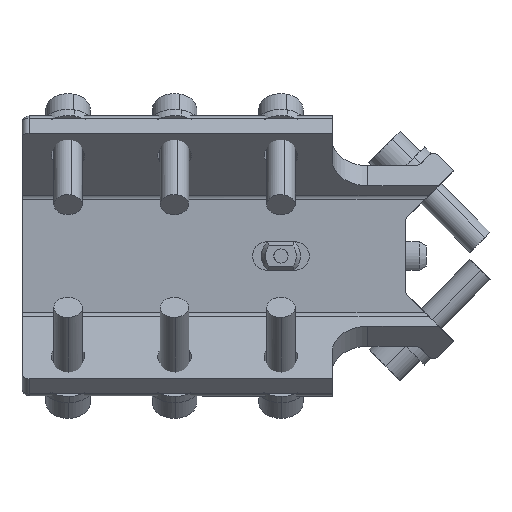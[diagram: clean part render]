
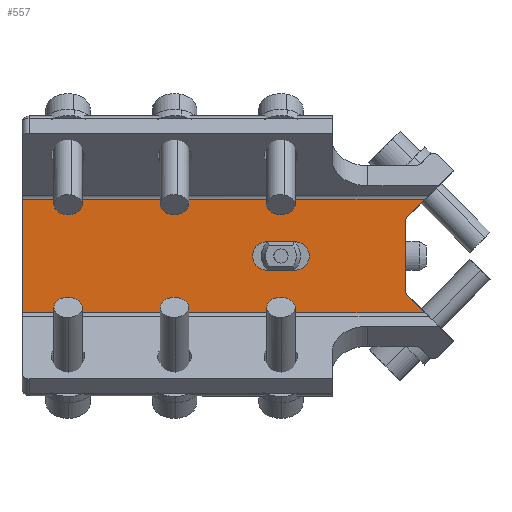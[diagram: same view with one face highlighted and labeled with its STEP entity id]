
A CAD part, front view. The second image highlights one B-rep face of the part: STEP entity #557.
In plain terms, the highlighted planar face has unit normal (0, -1, 0).
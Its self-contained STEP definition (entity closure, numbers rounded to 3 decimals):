
#279=CARTESIAN_POINT('Vertex',(-25.,43.241,-9.734)) ;
#295=CARTESIAN_POINT('Vertex',(-25.,43.241,9.734)) ;
#298=CARTESIAN_POINT('Line Origine',(-25.,43.241,0.)) ;
#321=CARTESIAN_POINT('Axis2P3D Location',(-23.5,43.241,-9.734)) ;
#325=CARTESIAN_POINT('Vertex',(-24.561,43.241,-10.794)) ;
#424=CARTESIAN_POINT('Axis2P3D Location',(-23.5,43.241,9.734)) ;
#428=CARTESIAN_POINT('Vertex',(-24.561,43.241,10.795)) ;
#443=CARTESIAN_POINT('Axis2P3D Location',(-90.,43.241,15.948)) ;
#448=CARTESIAN_POINT('Line Origine',(-86.5,43.241,15.948)) ;
#452=CARTESIAN_POINT('Vertex',(-133.,43.241,15.948)) ;
#454=CARTESIAN_POINT('Vertex',(-40.,43.241,15.948)) ;
#457=CARTESIAN_POINT('Line Origine',(-133.,43.241,0.)) ;
#461=CARTESIAN_POINT('Vertex',(-133.,43.241,-15.947)) ;
#464=CARTESIAN_POINT('Line Origine',(-86.5,43.241,-15.947)) ;
#468=CARTESIAN_POINT('Vertex',(-40.,43.241,-15.947)) ;
#471=CARTESIAN_POINT('Line Origine',(-35.361,43.241,-15.947)) ;
#475=CARTESIAN_POINT('Vertex',(-30.722,43.241,-15.947)) ;
#478=CARTESIAN_POINT('Line Origine',(-25.065,43.241,-15.947)) ;
#482=CARTESIAN_POINT('Vertex',(-19.408,43.241,-15.947)) ;
#485=CARTESIAN_POINT('Line Origine',(-21.985,43.241,-13.371)) ;
#490=CARTESIAN_POINT('Line Origine',(-21.985,43.241,13.371)) ;
#494=CARTESIAN_POINT('Vertex',(-19.408,43.241,15.948)) ;
#497=CARTESIAN_POINT('Line Origine',(-25.065,43.241,15.948)) ;
#501=CARTESIAN_POINT('Vertex',(-30.722,43.241,15.948)) ;
#504=CARTESIAN_POINT('Line Origine',(-35.361,43.241,15.948)) ;
#523=CARTESIAN_POINT('Axis2P3D Location',(-56.,43.241,0.)) ;
#527=CARTESIAN_POINT('Vertex',(-56.,43.241,-4.)) ;
#529=CARTESIAN_POINT('Vertex',(-56.,43.241,4.)) ;
#532=CARTESIAN_POINT('Line Origine',(-60.,43.241,-4.)) ;
#536=CARTESIAN_POINT('Vertex',(-64.,43.241,-4.)) ;
#539=CARTESIAN_POINT('Axis2P3D Location',(-64.,43.241,0.)) ;
#543=CARTESIAN_POINT('Vertex',(-64.,43.241,4.)) ;
#546=CARTESIAN_POINT('Line Origine',(-60.,43.241,4.)) ;
#299=DIRECTION('Vector Direction',(0.,0.,-1.)) ;
#322=DIRECTION('Axis2P3D Direction',(0.,1.,0.)) ;
#425=DIRECTION('Axis2P3D Direction',(0.,1.,-0.)) ;
#444=DIRECTION('Axis2P3D Direction',(0.,-1.,0.)) ;
#445=DIRECTION('Axis2P3D XDirection',(0.,0.,-1.)) ;
#449=DIRECTION('Vector Direction',(1.,0.,0.)) ;
#458=DIRECTION('Vector Direction',(0.,0.,-1.)) ;
#465=DIRECTION('Vector Direction',(1.,0.,0.)) ;
#472=DIRECTION('Vector Direction',(-1.,0.,0.)) ;
#479=DIRECTION('Vector Direction',(-1.,0.,0.)) ;
#486=DIRECTION('Vector Direction',(-0.707,0.,0.707)) ;
#491=DIRECTION('Vector Direction',(-0.707,0.,-0.707)) ;
#498=DIRECTION('Vector Direction',(-1.,0.,0.)) ;
#505=DIRECTION('Vector Direction',(-1.,0.,0.)) ;
#524=DIRECTION('Axis2P3D Direction',(0.,-1.,0.)) ;
#533=DIRECTION('Vector Direction',(1.,0.,0.)) ;
#540=DIRECTION('Axis2P3D Direction',(0.,-1.,0.)) ;
#547=DIRECTION('Vector Direction',(1.,0.,0.)) ;
#323=AXIS2_PLACEMENT_3D('Circle Axis2P3D',#321,#322,$) ;
#426=AXIS2_PLACEMENT_3D('Circle Axis2P3D',#424,#425,$) ;
#446=AXIS2_PLACEMENT_3D('Plane Axis2P3D',#443,#444,#445) ;
#525=AXIS2_PLACEMENT_3D('Circle Axis2P3D',#523,#524,$) ;
#541=AXIS2_PLACEMENT_3D('Circle Axis2P3D',#539,#540,$) ;
#510=ORIENTED_EDGE('',*,*,#456,.F.) ;
#511=ORIENTED_EDGE('',*,*,#463,.T.) ;
#512=ORIENTED_EDGE('',*,*,#470,.T.) ;
#513=ORIENTED_EDGE('',*,*,#477,.T.) ;
#514=ORIENTED_EDGE('',*,*,#484,.F.) ;
#515=ORIENTED_EDGE('',*,*,#489,.T.) ;
#516=ORIENTED_EDGE('',*,*,#327,.T.) ;
#517=ORIENTED_EDGE('',*,*,#302,.F.) ;
#518=ORIENTED_EDGE('',*,*,#430,.T.) ;
#519=ORIENTED_EDGE('',*,*,#496,.F.) ;
#520=ORIENTED_EDGE('',*,*,#503,.T.) ;
#521=ORIENTED_EDGE('',*,*,#508,.F.) ;
#552=ORIENTED_EDGE('',*,*,#531,.F.) ;
#553=ORIENTED_EDGE('',*,*,#538,.F.) ;
#554=ORIENTED_EDGE('',*,*,#545,.F.) ;
#555=ORIENTED_EDGE('',*,*,#550,.F.) ;
#556=FACE_BOUND('',#551,.T.) ;
#300=VECTOR('Line Direction',#299,1.) ;
#450=VECTOR('Line Direction',#449,1.) ;
#459=VECTOR('Line Direction',#458,1.) ;
#466=VECTOR('Line Direction',#465,1.) ;
#473=VECTOR('Line Direction',#472,1.) ;
#480=VECTOR('Line Direction',#479,1.) ;
#487=VECTOR('Line Direction',#486,1.) ;
#492=VECTOR('Line Direction',#491,1.) ;
#499=VECTOR('Line Direction',#498,1.) ;
#506=VECTOR('Line Direction',#505,1.) ;
#534=VECTOR('Line Direction',#533,1.) ;
#548=VECTOR('Line Direction',#547,1.) ;
#557=ADVANCED_FACE('Verbindung 90F 8KT Rohr SW80 zu SW50_1',(#522,#556),#447,.T.) ;
#324=CIRCLE('generated circle',#323,1.5) ;
#427=CIRCLE('generated circle',#426,1.5) ;
#526=CIRCLE('generated circle',#525,4.) ;
#542=CIRCLE('generated circle',#541,4.) ;
#302=EDGE_CURVE('',#296,#280,#301,.T.) ;
#327=EDGE_CURVE('',#326,#280,#324,.T.) ;
#430=EDGE_CURVE('',#296,#429,#427,.T.) ;
#456=EDGE_CURVE('',#453,#455,#451,.T.) ;
#463=EDGE_CURVE('',#453,#462,#460,.T.) ;
#470=EDGE_CURVE('',#462,#469,#467,.T.) ;
#477=EDGE_CURVE('',#469,#476,#474,.F.) ;
#484=EDGE_CURVE('',#483,#476,#481,.T.) ;
#489=EDGE_CURVE('',#483,#326,#488,.T.) ;
#496=EDGE_CURVE('',#495,#429,#493,.T.) ;
#503=EDGE_CURVE('',#495,#502,#500,.T.) ;
#508=EDGE_CURVE('',#455,#502,#507,.F.) ;
#531=EDGE_CURVE('',#528,#530,#526,.T.) ;
#538=EDGE_CURVE('',#537,#528,#535,.T.) ;
#545=EDGE_CURVE('',#544,#537,#542,.T.) ;
#550=EDGE_CURVE('',#530,#544,#549,.F.) ;
#509=EDGE_LOOP('',(#510,#511,#512,#513,#514,#515,#516,#517,#518,#519,#520,#521)) ;
#551=EDGE_LOOP('',(#552,#553,#554,#555)) ;
#522=FACE_OUTER_BOUND('',#509,.T.) ;
#301=LINE('Line',#298,#300) ;
#451=LINE('Line',#448,#450) ;
#460=LINE('Line',#457,#459) ;
#467=LINE('Line',#464,#466) ;
#474=LINE('Line',#471,#473) ;
#481=LINE('Line',#478,#480) ;
#488=LINE('Line',#485,#487) ;
#493=LINE('Line',#490,#492) ;
#500=LINE('Line',#497,#499) ;
#507=LINE('Line',#504,#506) ;
#535=LINE('Line',#532,#534) ;
#549=LINE('Line',#546,#548) ;
#447=PLANE('',#446) ;
#280=VERTEX_POINT('',#279) ;
#296=VERTEX_POINT('',#295) ;
#326=VERTEX_POINT('',#325) ;
#429=VERTEX_POINT('',#428) ;
#453=VERTEX_POINT('',#452) ;
#455=VERTEX_POINT('',#454) ;
#462=VERTEX_POINT('',#461) ;
#469=VERTEX_POINT('',#468) ;
#476=VERTEX_POINT('',#475) ;
#483=VERTEX_POINT('',#482) ;
#495=VERTEX_POINT('',#494) ;
#502=VERTEX_POINT('',#501) ;
#528=VERTEX_POINT('',#527) ;
#530=VERTEX_POINT('',#529) ;
#537=VERTEX_POINT('',#536) ;
#544=VERTEX_POINT('',#543) ;
